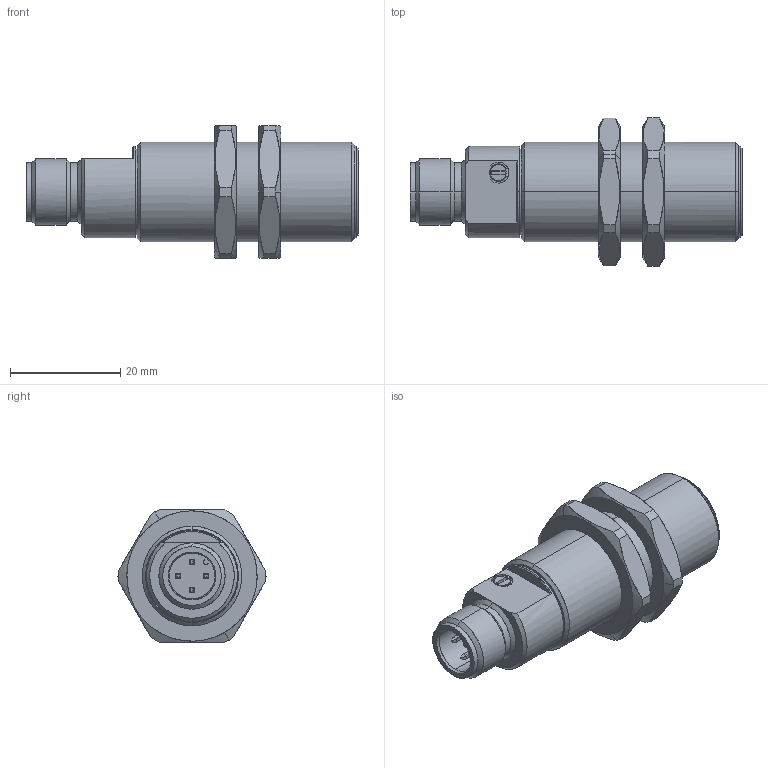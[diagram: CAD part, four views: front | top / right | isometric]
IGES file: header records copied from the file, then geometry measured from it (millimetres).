
Start section: Comment
Global section: file name: FxAM 18_S14_60_Poti seitlich.igs; native system:  By Spatial Corp.; preprocessor: XPlus GENERIC/IGES 3.0; author: Author; organization: Title; date: 20040804.173331; units: inch
Bounding box: 60.1 x 26.8 x 24 mm (x, y, z)
Surface area: 6014.6 mm2 (no closed solid volume)
Topology: 0 solids, 0 shells, 207 faces, 1034 edges, 1033 vertices
Faces by surface type: bspline 207
